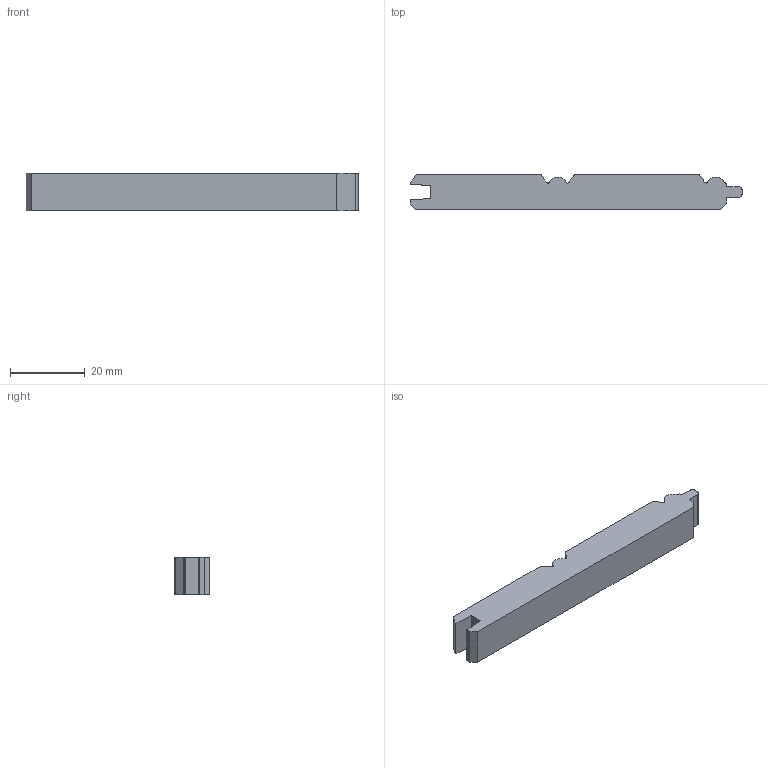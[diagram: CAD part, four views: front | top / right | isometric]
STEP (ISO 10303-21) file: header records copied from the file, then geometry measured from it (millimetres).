
FILE_DESCRIPTION (( 'STEP AP203' ), '1' );
FILE_NAME ('AB76FJ.STEP', '2024-02-16T18:01:04', ( '' ), ( '' ), 'SwSTEP 2.0', 'SolidWorks 2020', '' );
FILE_SCHEMA (( 'CONFIG_CONTROL_DESIGN' ));
Length unit declared in the file: millimetre
Products named in the file (1): AB76FJ
Bounding box: 88.9 x 9.53 x 10 mm (x, y, z)
Volume: 7712.2 mm3; surface area: 3609.3 mm2
Topology: 1 solids, 1 shells, 34 faces, 96 edges, 64 vertices
Faces by surface type: plane 22, cylinder 12
Entity records: 1181 total; most frequent: CARTESIAN_POINT 195, ORIENTED_EDGE 192, DIRECTION 190, EDGE_CURVE 96, LINE 72, VECTOR 72, VERTEX_POINT 64, AXIS2_PLACEMENT_3D 59
